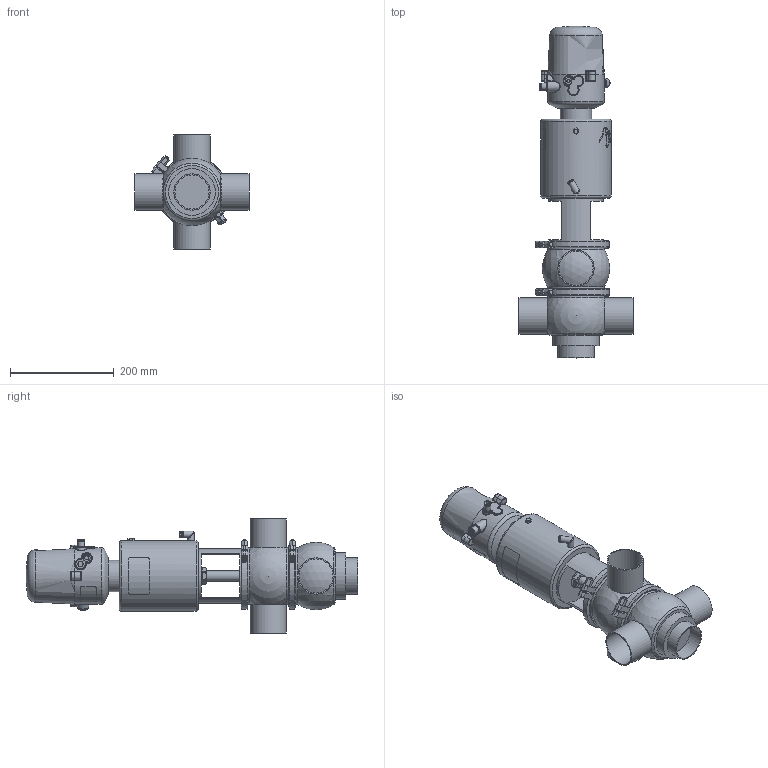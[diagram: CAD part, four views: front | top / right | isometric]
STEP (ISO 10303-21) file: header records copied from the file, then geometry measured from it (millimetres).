
FILE_DESCRIPTION (( 'STEP AP214' ), '1' );
FILE_NAME ('INNOVA K G W DIN 065 T3 AS NC & C-TOP S_10.240.16.0082.STEP', '2024-08-06T09:04:20', ( '' ), ( '' ), 'SwSTEP 2.0', 'SolidWorks 2023', '' );
FILE_SCHEMA (( 'AUTOMOTIVE_DESIGN' ));
Length unit declared in the file: millimetre
Products named in the file (8): 10.240.15.0014_T3 AS P0; INNOVA K G W DIN 065 T3 AS NC & C-TOP S_10.240.16.0082; 10.240.15.0010_DN 065; 10.240.15.0017_Estàndard; 10.240.15.0003_DIN 065; 10.240.15.0007_DIN 065; 10.426.15.0001_C-TOP S - 1 EV; 10.240.15.0001_DN 065
Assembly tree (8 placements, depth 2):
  INNOVA K G W DIN 065 T3 AS NC & C-TOP S_10.240.16.0082
    10.240.15.0007_DIN 065
    10.240.15.0003_DIN 065
    10.240.15.0010_DN 065
    10.240.15.0014_T3 AS P0
    10.240.15.0017_Estàndard
    10.426.15.0001_C-TOP S - 1 EV
    10.240.15.0001_DN 065  x2
Bounding box: 220 x 640.5 x 220 mm (x, y, z)
Volume: 6176281.1 mm3; surface area: 522470.5 mm2
Topology: 8 solids, 8 shells, 1184 faces, 2853 edges, 1901 vertices
Faces by surface type: plane 416, cylinder 360, cone 201, bspline 160, torus 37, sphere 10
Full cylindrical faces by diameter (mm): 0.371 x17, 0.512 x16, 0.658 x16, 0.795 x16, 0.94 x15, 1.098 x15, 1.241 x13, 1.382 x13, 1.523 x11, 1.669 x10, 2.201 x1, 4 x2, 5.5 x2, 6 x2, 6.15 x1, 8 x6, 8.5 x1, 10 x1, 10.5 x1, 11 x2, 12.5 x3, 13 x2, 13.5 x2, 16 x1, 17 x3, 20 x3, 20.5 x1, 22 x2, 31 x1, 34.5 x3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
Entity records: 58317 total; most frequent: CARTESIAN_POINT 27906, ORIENTED_EDGE 4538, DIRECTION 3697, EDGE_CURVE 2269, VERTEX_POINT 1618, EDGE_LOOP 1593, AXIS2_PLACEMENT_3D 1520, FACE_OUTER_BOUND 1347
